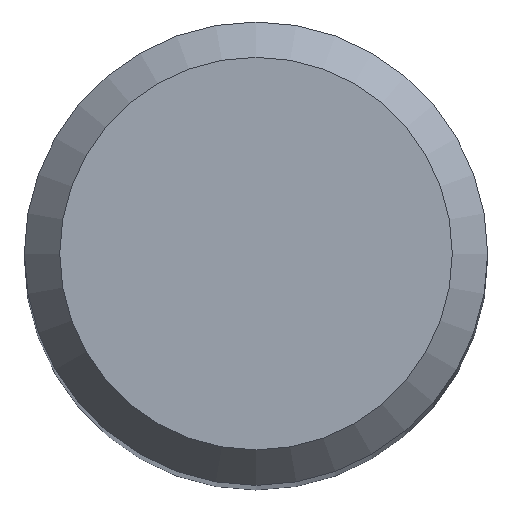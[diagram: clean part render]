
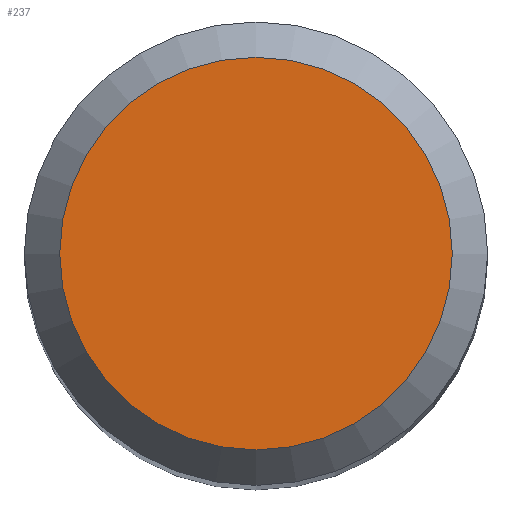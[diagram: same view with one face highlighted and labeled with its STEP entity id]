
A CAD part, top view. The second image highlights one B-rep face of the part: STEP entity #237.
In plain terms, the highlighted planar face has unit normal (0, 0, 1).
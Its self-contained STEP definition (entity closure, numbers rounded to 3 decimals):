
#84 = CONICAL_SURFACE('',#85,6.,0.695);
#85 = AXIS2_PLACEMENT_3D('',#86,#87,#88);
#86 = CARTESIAN_POINT('',(95.,0.,59.9));
#87 = DIRECTION('',(-0.,-0.,-1.));
#88 = DIRECTION('',(1.,0.,-0.));
#182 = EDGE_CURVE('',#183,#183,#185,.T.);
#183 = VERTEX_POINT('',#184);
#184 = CARTESIAN_POINT('',(100.083,0.,61.));
#185 = SURFACE_CURVE('',#186,(#191,#198),.PCURVE_S1.);
#186 = CIRCLE('',#187,5.083);
#187 = AXIS2_PLACEMENT_3D('',#188,#189,#190);
#188 = CARTESIAN_POINT('',(95.,0.,61.));
#189 = DIRECTION('',(0.,0.,1.));
#190 = DIRECTION('',(1.,0.,-0.));
#191 = PCURVE('',#84,#192);
#192 = DEFINITIONAL_REPRESENTATION('',(#193),#197);
#193 = LINE('',#194,#195);
#194 = CARTESIAN_POINT('',(-0.,-1.1));
#195 = VECTOR('',#196,1.);
#196 = DIRECTION('',(-1.,-0.));
#197 = ( GEOMETRIC_REPRESENTATION_CONTEXT(2) 
PARAMETRIC_REPRESENTATION_CONTEXT() REPRESENTATION_CONTEXT('2D SPACE',''
  ) );
#198 = PCURVE('',#199,#204);
#199 = PLANE('',#200);
#200 = AXIS2_PLACEMENT_3D('',#201,#202,#203);
#201 = CARTESIAN_POINT('',(95.,0.,61.));
#202 = DIRECTION('',(0.,0.,1.));
#203 = DIRECTION('',(1.,0.,-0.));
#204 = DEFINITIONAL_REPRESENTATION('',(#205),#209);
#205 = CIRCLE('',#206,5.083);
#206 = AXIS2_PLACEMENT_2D('',#207,#208);
#207 = CARTESIAN_POINT('',(0.,0.));
#208 = DIRECTION('',(1.,0.));
#209 = ( GEOMETRIC_REPRESENTATION_CONTEXT(2) 
PARAMETRIC_REPRESENTATION_CONTEXT() REPRESENTATION_CONTEXT('2D SPACE',''
  ) );
#237 = ADVANCED_FACE('',(#238),#199,.T.);
#238 = FACE_BOUND('',#239,.T.);
#239 = EDGE_LOOP('',(#240));
#240 = ORIENTED_EDGE('',*,*,#182,.T.);
